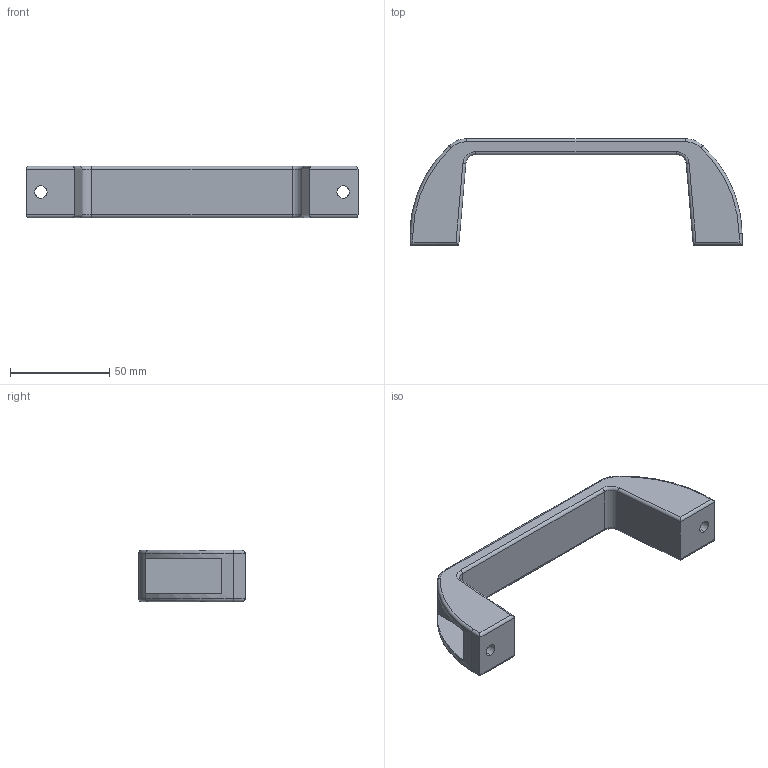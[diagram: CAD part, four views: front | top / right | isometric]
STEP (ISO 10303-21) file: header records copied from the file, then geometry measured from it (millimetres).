
FILE_DESCRIPTION (( 'STEP AP203' ), '1' );
FILE_NAME ('4.540.002.STEP', '2022-05-30T05:23:58', ( '' ), ( '' ), 'SwSTEP 2.0', 'SolidWorks 2021', '' );
FILE_SCHEMA (( 'CONFIG_CONTROL_DESIGN' ));
Length unit declared in the file: millimetre
Products named in the file (1): 4.540.002
Bounding box: 167 x 53.5 x 26 mm (x, y, z)
Volume: 59910.8 mm3; surface area: 21121.9 mm2
Topology: 1 solids, 1 shells, 70 faces, 170 edges, 104 vertices
Faces by surface type: plane 32, cylinder 26, torus 12
Entity records: 2155 total; most frequent: CARTESIAN_POINT 421, DIRECTION 356, ORIENTED_EDGE 340, EDGE_CURVE 170, AXIS2_PLACEMENT_3D 127, VERTEX_POINT 104, LINE 102, VECTOR 102
